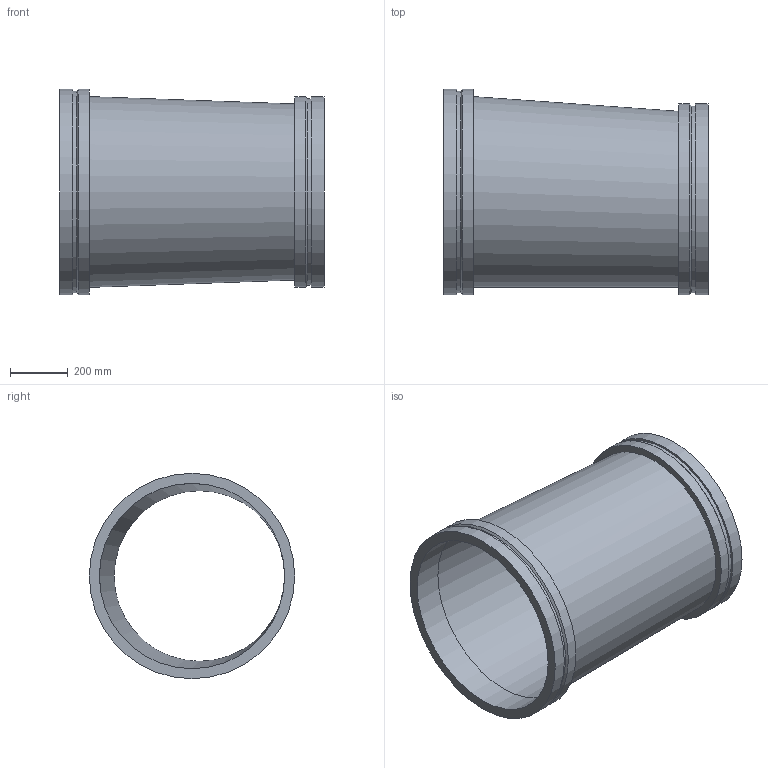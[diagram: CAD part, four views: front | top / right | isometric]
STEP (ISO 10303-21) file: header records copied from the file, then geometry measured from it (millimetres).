
FILE_DESCRIPTION(/* description */ ('VIC REDUCER ECCENTRIC No W51-VR','CAx-IF Rec.Pracs.---Representation and Presentation of Product Manufacturing Information (PMI)---4.0---2014-10-13'),/* implementation_level */ '2;1');
FILE_NAME(/* name */ 'C:\Users\kkamble\AppData\Roaming\Autodesk\ApplicationPlugins\Back Up\Victaulic_Vic-Ring_Reducer Eccentric_No W51 VR (AGR)\Victaulic_Vic-Ring_Reducer Eccentric_No W51 VR (AGR)_26.0x24.0 (650x600).stp',/* time_stamp */ '2020-09-10T11:49:38+05:00',/* author */ ('CONSTRUCTION PIPING SERVICES'),/* organization */ ('Victaulic'),/* preprocessor_version */ 'ST-DEVELOPER v17.2',/* originating_system */ 'Autodesk Inventor 2019',/* authorisation */ '');
FILE_SCHEMA (('AP242_MANAGED_MODEL_BASED_3D_ENGINEERING_MIM_LF { 1 0 10303 442 1 1 4 }'));
Length unit declared in the file: inch
Products named in the file (1): W51 VR-26.0x24.0
Bounding box: 914.4 x 711.2 x 711.2 mm (x, y, z)
Volume: 27337805.2 mm3; surface area: 3920684.7 mm2
Topology: 1 solids, 1 shells, 18 faces, 49 edges, 37 vertices
Faces by surface type: cylinder 8, plane 6, cone 2, bspline 2
Full cylindrical faces by diameter (mm): 590.55 x1, 641.35 x1, 645.922 x1, 660.4 x2, 696.722 x1, 711.2 x2
Entity records: 792 total; most frequent: CARTESIAN_POINT 158, DIRECTION 144, ORIENTED_EDGE 98, AXIS2_PLACEMENT_3D 67, EDGE_CURVE 49, CIRCLE 37, VERTEX_POINT 37, EDGE_LOOP 24
